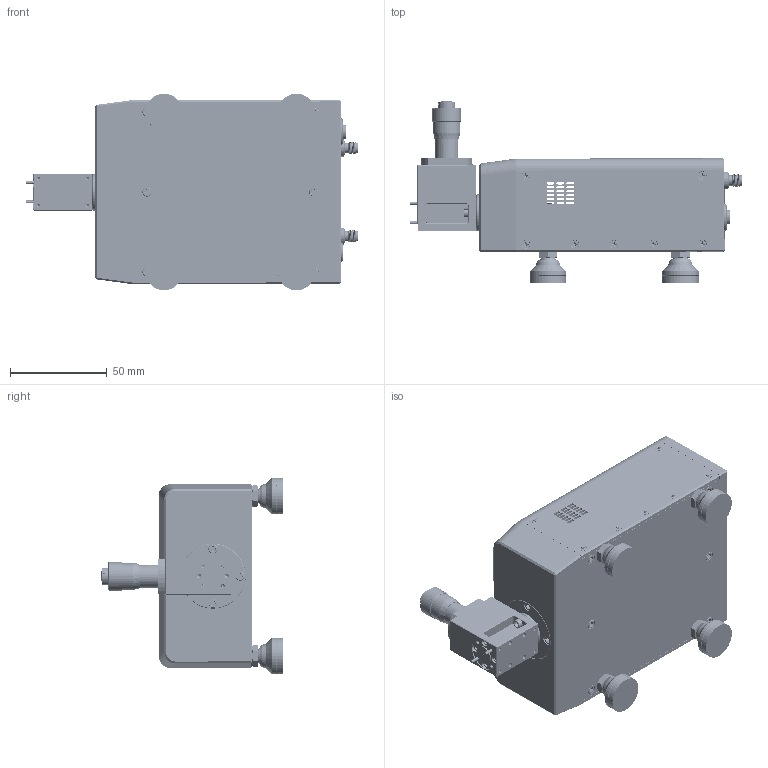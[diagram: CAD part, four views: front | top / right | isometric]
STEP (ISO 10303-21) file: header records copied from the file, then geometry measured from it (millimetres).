
FILE_DESCRIPTION (( 'STEP AP214' ), '1' );
FILE_NAME ('TO-R03-A.STEP', '2024-11-01T23:26:17', ( '' ), ( '' ), 'SwSTEP 2.0', 'SolidWorks 2021', '' );
FILE_SCHEMA (( 'AUTOMOTIVE_DESIGN' ));
Length unit declared in the file: inch
Products named in the file (1): TO-R03-A
Bounding box: 171.94 x 94.12 x 101.9 mm (x, y, z)
Volume: 244153.7 mm3; surface area: 136382.2 mm2
Topology: 74 solids, 74 shells, 4830 faces, 12617 edges, 7972 vertices
Faces by surface type: cylinder 2190, plane 1331, cone 985, bspline 275, sphere 37, torus 12
Entity records: 310609 total; most frequent: CARTESIAN_POINT 139456, ORIENTED_EDGE 24812, DIRECTION 19900, EDGE_CURVE 12406, VERTEX_POINT 7942, AXIS2_PLACEMENT_3D 7583, EDGE_LOOP 5294, LENGTH_MEASURE_WITH_UNIT 4906
